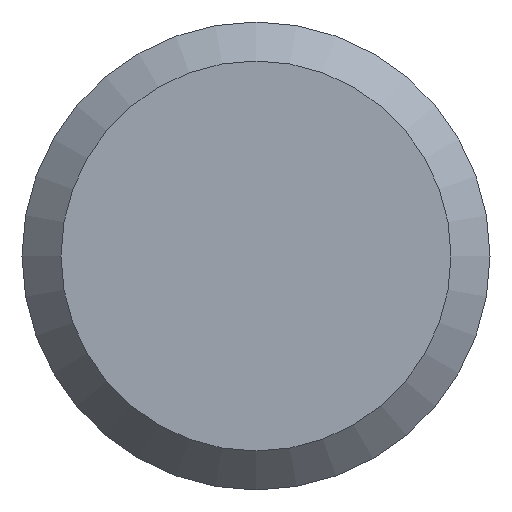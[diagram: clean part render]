
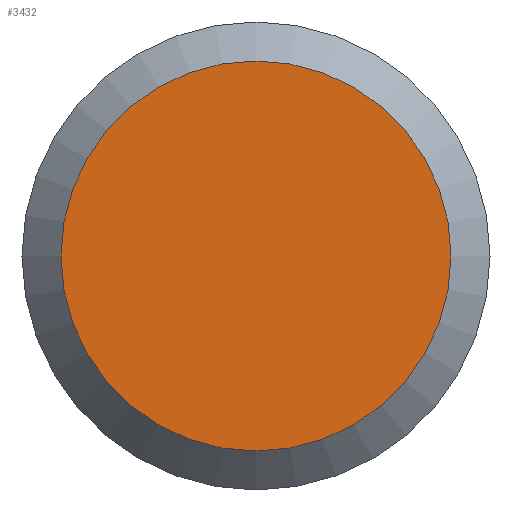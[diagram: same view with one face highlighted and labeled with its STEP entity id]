
A CAD part, left-side view. The second image highlights one B-rep face of the part: STEP entity #3432.
In plain terms, the highlighted planar face has unit normal (-1, 0, 0).
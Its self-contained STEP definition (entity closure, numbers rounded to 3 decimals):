
#1255=PLANE('',#3176);
#1301=ORIENTED_EDGE('',*,*,#1763,.F.);
#1531=CIRCLE('',#3175,2.5);
#1647=VERTEX_POINT('',#2823);
#1763=EDGE_CURVE('',#1647,#1647,#1531,.T.);
#1881=EDGE_LOOP('',(#1301));
#2113=FACE_BOUND('',#1881,.T.);
#2349=DIRECTION('',(1.,0.,0.));
#2350=DIRECTION('',(0.,-2.5,0.));
#2351=DIRECTION('',(-1.,0.,0.));
#2352=DIRECTION('',(0.,1.,0.));
#2823=CARTESIAN_POINT('',(-214.333,-41.779,0.));
#2824=CARTESIAN_POINT('',(-214.333,-39.279,0.));
#2825=CARTESIAN_POINT('',(-214.333,-39.279,0.));
#3175=AXIS2_PLACEMENT_3D('',#2824,#2349,#2350);
#3176=AXIS2_PLACEMENT_3D('',#2825,#2351,#2352);
#3432=ADVANCED_FACE('',(#2113),#1255,.T.);
